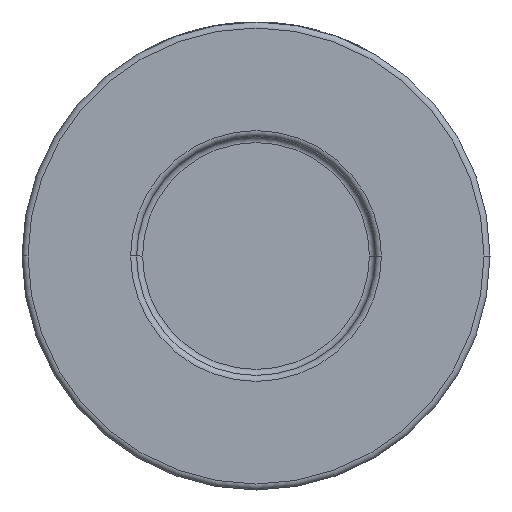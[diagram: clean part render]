
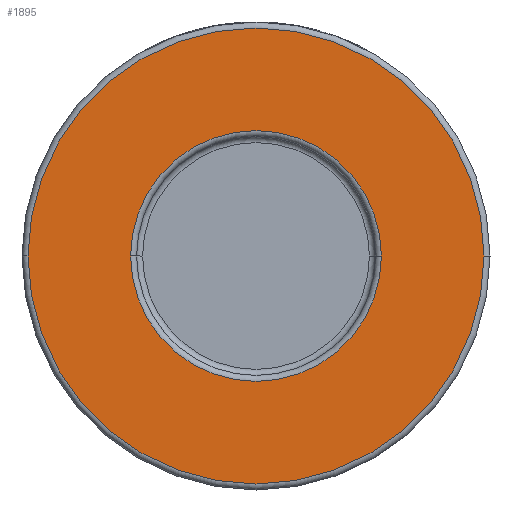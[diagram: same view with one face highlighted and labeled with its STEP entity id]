
A CAD part, front view. The second image highlights one B-rep face of the part: STEP entity #1895.
In plain terms, the highlighted planar face has unit normal (0, -1, 0).
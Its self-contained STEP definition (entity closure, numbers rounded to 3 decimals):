
#1 = ORIENTED_EDGE ( 'NONE', *, *, #2352, .T. ) ;
#145 = DIRECTION ( 'NONE',  ( 0., -1., 0. ) ) ;
#359 = DIRECTION ( 'NONE',  ( 0., 1., 0. ) ) ;
#384 = DIRECTION ( 'NONE',  ( 1., 0., 0. ) ) ;
#405 = EDGE_CURVE ( 'NONE', #987, #2681, #3145, .T. ) ;
#635 = AXIS2_PLACEMENT_3D ( 'NONE', #3062, #988, #4089 ) ;
#690 = VERTEX_POINT ( 'NONE', #3385 ) ;
#716 = CIRCLE ( 'NONE', #3085, 20.9 ) ;
#840 = FACE_OUTER_BOUND ( 'NONE', #901, .T. ) ;
#901 = EDGE_LOOP ( 'NONE', ( #1219, #1507 ) ) ;
#929 = CARTESIAN_POINT ( 'NONE',  ( 0., -26., 0. ) ) ;
#934 = EDGE_LOOP ( 'NONE', ( #1, #1272 ) ) ;
#987 = VERTEX_POINT ( 'NONE', #3508 ) ;
#988 = DIRECTION ( 'NONE',  ( 0., -1., 0. ) ) ;
#1219 = ORIENTED_EDGE ( 'NONE', *, *, #405, .T. ) ;
#1260 = EDGE_CURVE ( 'NONE', #2681, #987, #4559, .T. ) ;
#1272 = ORIENTED_EDGE ( 'NONE', *, *, #1896, .T. ) ;
#1275 = CARTESIAN_POINT ( 'NONE',  ( -20.9, -26., 0. ) ) ;
#1318 = CIRCLE ( 'NONE', #3906, 20.9 ) ;
#1507 = ORIENTED_EDGE ( 'NONE', *, *, #1260, .T. ) ;
#1550 = AXIS2_PLACEMENT_3D ( 'NONE', #3668, #145, #1565 ) ;
#1565 = DIRECTION ( 'NONE',  ( 1., 0., 0. ) ) ;
#1624 = CARTESIAN_POINT ( 'NONE',  ( -38., -26., 0. ) ) ;
#1781 = CARTESIAN_POINT ( 'NONE',  ( 0., -26., 0. ) ) ;
#1895 = ADVANCED_FACE ( 'NONE', ( #2953, #840 ), #1934, .T. ) ;
#1896 = EDGE_CURVE ( 'NONE', #2235, #690, #1318, .T. ) ;
#1934 = PLANE ( 'NONE',  #1550 ) ;
#2235 = VERTEX_POINT ( 'NONE', #1275 ) ;
#2352 = EDGE_CURVE ( 'NONE', #690, #2235, #716, .T. ) ;
#2398 = DIRECTION ( 'NONE',  ( 1., 0., 0. ) ) ;
#2681 = VERTEX_POINT ( 'NONE', #1624 ) ;
#2773 = DIRECTION ( 'NONE',  ( 1., 0., 0. ) ) ;
#2953 = FACE_BOUND ( 'NONE', #934, .T. ) ;
#3011 = CARTESIAN_POINT ( 'NONE',  ( 0., -26., 0. ) ) ;
#3062 = CARTESIAN_POINT ( 'NONE',  ( 0., -26., 0. ) ) ;
#3082 = DIRECTION ( 'NONE',  ( 0., 1., 0. ) ) ;
#3085 = AXIS2_PLACEMENT_3D ( 'NONE', #1781, #359, #384 ) ;
#3145 = CIRCLE ( 'NONE', #635, 38. ) ;
#3151 = AXIS2_PLACEMENT_3D ( 'NONE', #3011, #3444, #2773 ) ;
#3385 = CARTESIAN_POINT ( 'NONE',  ( 20.9, -26., 0. ) ) ;
#3444 = DIRECTION ( 'NONE',  ( 0., -1., 0. ) ) ;
#3508 = CARTESIAN_POINT ( 'NONE',  ( 38., -26., 0. ) ) ;
#3668 = CARTESIAN_POINT ( 'NONE',  ( 39., -26., 0. ) ) ;
#3906 = AXIS2_PLACEMENT_3D ( 'NONE', #929, #3082, #2398 ) ;
#4089 = DIRECTION ( 'NONE',  ( 1., 0., 0. ) ) ;
#4559 = CIRCLE ( 'NONE', #3151, 38. ) ;
